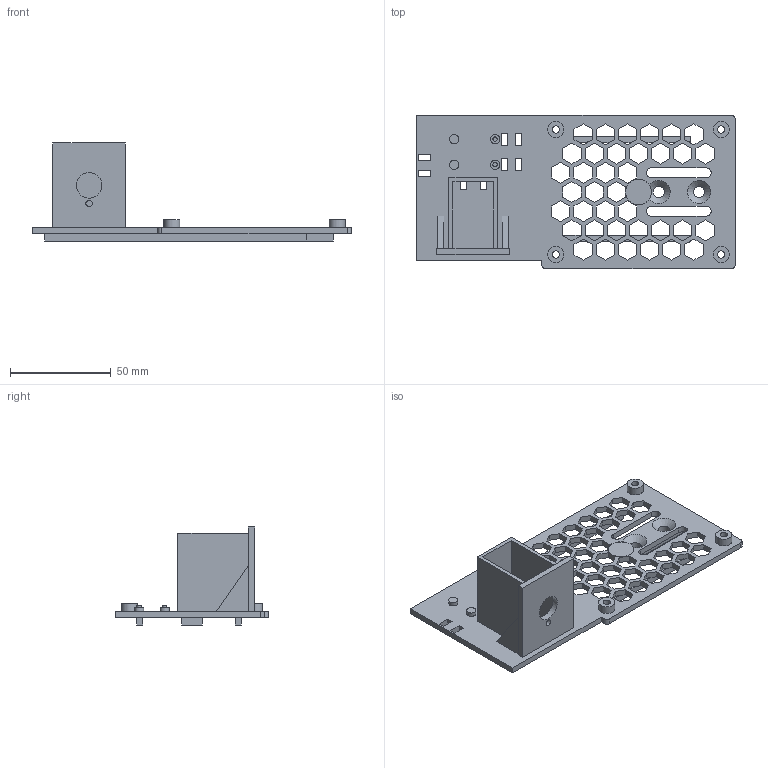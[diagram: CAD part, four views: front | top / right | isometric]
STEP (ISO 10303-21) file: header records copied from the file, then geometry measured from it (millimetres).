
FILE_DESCRIPTION(('Open CASCADE Model'),'2;1');
FILE_NAME('Open CASCADE Shape Model','2026-10-26T03:01:56',('Author'),( 'Open CASCADE'),'Open CASCADE STEP processor 7.9','build123d', 'Unknown');
FILE_SCHEMA(('AUTOMOTIVE_DESIGN { 1 0 10303 214 1 1 1 1 }'));
Length unit declared in the file: millimetre
Products named in the file (1): COMPOUND
Bounding box: 158 x 76 x 48.6 mm (x, y, z)
Volume: 42547.2 mm3; surface area: 37447.8 mm2
Topology: 1 solids, 1 shells, 385 faces, 1150 edges, 749 vertices
Faces by surface type: plane 357, cylinder 26, cone 2
Full cylindrical faces by diameter (mm): 2.1 x2, 3.2 x1, 3.6 x4, 4.6 x4, 5.7 x2, 8 x4, 12.7 x2
Entity records: 27985 total; most frequent: CARTESIAN_POINT 5146, DIRECTION 4070, LINE 3164, VECTOR 3164, ORIENTED_EDGE 2300, PCURVE 2300, DEFINITIONAL_REPRESENTATION 2300, EDGE_CURVE 1150
